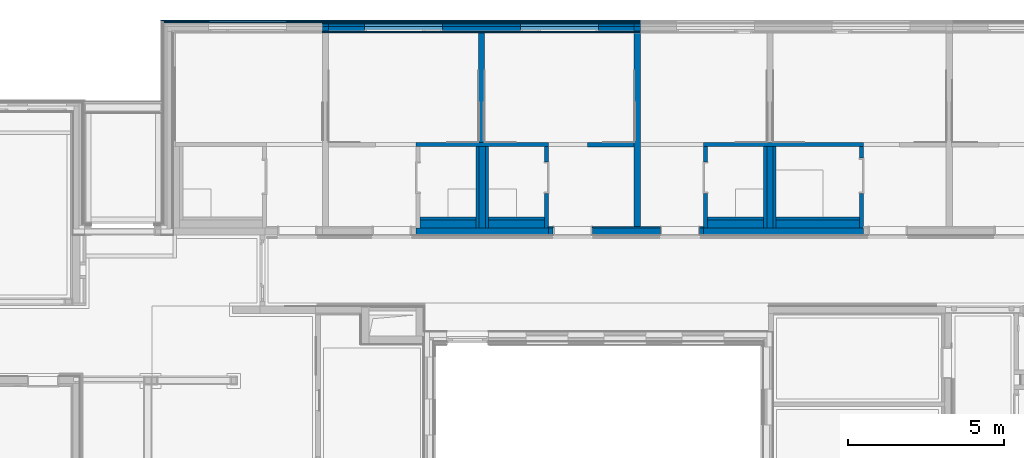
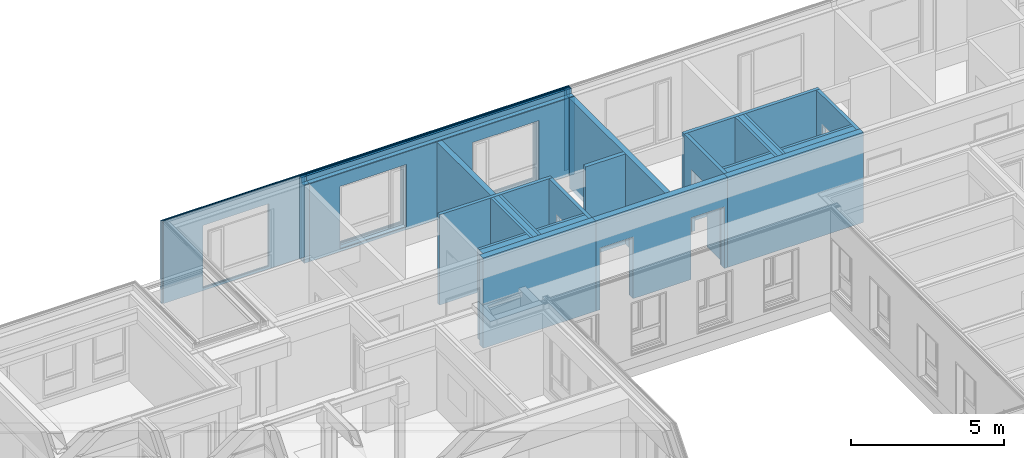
# One storey, part 59 of 207: 50 walls, 24 openings.
"""IFC4 building model written with IfcOpenShell, lengths in metres."""

from ifc_helpers import new_model, entity, si_unit, converted_unit, derived_unit, frame, frame_2d, origin, origin_with_axes, place, context, subcontext, project, spatial, polyline, rectangle, outline, extrude, material, element, save


model = new_model("IFC4")

# Units and contexts
model_context = context("Model", 3, precision=1e-05, world=origin())
body_context = subcontext(model_context, "Body", "Model", "MODEL_VIEW")
ifc_project = project(units=[si_unit("LENGTHUNIT", "METRE"), si_unit("AREAUNIT", "SQUARE_METRE"), si_unit("VOLUMEUNIT", "CUBIC_METRE"), si_unit("MASSUNIT", "GRAM", prefix="KILO"), converted_unit("PLANEANGLEUNIT", "DEGREE", entity("IfcPlaneAngleMeasure", 0.0174532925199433), si_unit("PLANEANGLEUNIT", "RADIAN"), dimensions=[0, 0, 0, 0, 0, 0, 0]), derived_unit("THERMALTRANSMITTANCEUNIT", [(si_unit("POWERUNIT", "WATT"), 1), (si_unit("THERMODYNAMICTEMPERATUREUNIT", "KELVIN"), -1), (si_unit("LENGTHUNIT", "METRE"), -2)]), derived_unit("VOLUMETRICFLOWRATEUNIT", [(si_unit("LENGTHUNIT", "METRE"), 3), (converted_unit("TIMEUNIT", "hour", entity("IfcTimeMeasure", 3600.0), si_unit("TIMEUNIT", "SECOND"), dimensions=[0, 0, 1, 0, 0, 0, 0]), -1), (si_unit("LENGTHUNIT", "METRE"), -1)])], contexts=[model_context])

# Site, building, storey
site_placement = place(None, origin())
site = spatial("IfcSite", under=ifc_project, at=site_placement, Name="Psychiatrie Neubau Wunstorf", CompositionType="ELEMENT")
building_placement = place(site_placement, origin())
building = spatial("IfcBuilding", under=site, at=building_placement, Name="Neubau H2 Stationsgebäude", CompositionType="ELEMENT")
storey_placement = place(building_placement, frame((0.0, 0.0, -0.2)))
storey = spatial("IfcBuildingStorey", under=building, at=storey_placement, Name="H2 Ebene 0", CompositionType="ELEMENT", Elevation=-0.2)

# Walls
ifc_material_1 = material(Name="WA-LB")
wall_1_placement = place(storey_placement, frame((75.9, 31.614, 0.5)))
element("IfcWall", 1, at=wall_1_placement, inside=storey, material=ifc_material_1, context=body_context, shape_type="SweptSolid", body=[
    extrude(rectangle(XDim=0.2, YDim=0.036, at=frame_2d((0.1, 0.018), x_axis=(1.0, 0.0))), origin_with_axes(), (0.0, 0.0, 1.0), 3.1),
])
ifc_material_2 = material(Name="WA-HD")
wall_2_placement = place(storey_placement, frame((75.9, 31.65, 0.5)))
element("IfcWall", 2, at=wall_2_placement, inside=storey, material=ifc_material_2, context=body_context, shape_type="SweptSolid", body=[
    extrude(rectangle(XDim=0.2, YDim=0.16, at=frame_2d((0.1, 0.08), x_axis=(1.0, 0.0))), origin_with_axes(), (0.0, 0.0, 1.0), 3.1),
])
ifc_material_3 = material(Name="WA-DL")
wall_3_placement = place(storey_placement, frame((75.9, 31.81, 0.5)))
element("IfcWall", 3, at=wall_3_placement, inside=storey, material=ifc_material_3, context=body_context, shape_type="SweptSolid", body=[
    extrude(rectangle(XDim=0.2, YDim=0.08, at=frame_2d((0.1, 0.04), x_axis=(1.0, 0.0))), origin_with_axes(), (0.0, 0.0, 1.0), 3.3),
])
ifc_material_4 = material(Name="WA-TP")
wall_4_placement = place(storey_placement, frame((75.9, 31.89, 0.5)))
element("IfcWall", 4, at=wall_4_placement, inside=storey, material=ifc_material_4, context=body_context, shape_type="SweptSolid", body=[
    extrude(rectangle(XDim=0.2, YDim=0.036, at=frame_2d((0.1, 0.018), x_axis=(1.0, 0.0))), origin_with_axes(), (0.0, 0.0, 1.0), 3.3),
])
ifc_material_5 = material(Name="WA-KL")
wall_5_placement = place(storey_placement, frame((75.9, 31.926, 0.5)))
element("IfcWall", 5, at=wall_5_placement, inside=storey, material=ifc_material_5, context=body_context, shape_type="SweptSolid", body=[
    extrude(rectangle(XDim=0.2, YDim=0.024, at=frame_2d((0.1, 0.012), x_axis=(1.0, 0.0))), origin_with_axes(), (0.0, 0.0, 1.0), 3.3),
])
ifc_material_6 = material(Name="WA-TL")
wall_6_placement = place(storey_placement, frame((75.9, 31.95, 0.5)))
element("IfcWall", 6, at=wall_6_placement, inside=storey, material=ifc_material_6, context=body_context, shape_type="SweptSolid", body=[
    extrude(rectangle(XDim=0.2, YDim=0.024, at=frame_2d((0.1, 0.012), x_axis=(1.0, 0.0))), origin_with_axes(), (0.0, 0.0, 1.0), 3.3),
])
ifc_material_7 = material(Name="WA-HS")
wall_7_placement = place(storey_placement, frame((75.9, 31.974, 0.5)))
element("IfcWall", 7, at=wall_7_placement, inside=storey, material=ifc_material_7, context=body_context, shape_type="SweptSolid", body=[
    extrude(rectangle(XDim=0.2, YDim=0.042, at=frame_2d((0.1, 0.021), x_axis=(1.0, 0.0))), origin_with_axes(), (0.0, 0.0, 1.0), 3.3),
])

# Wall, openings
ifc_material_8 = material(Name="WA-LB")
wall_8_placement = place(storey_placement, frame((76.1, 31.614, 0.5)))
wall_8 = element("IfcWall", 8, at=wall_8_placement, inside=storey, material=ifc_material_8, context=body_context, shape_type="SweptSolid", body=[
    extrude(rectangle(XDim=9.8, YDim=0.036, at=frame_2d((4.9, 0.018), x_axis=(1.0, 0.0))), origin_with_axes(), (0.0, 0.0, 1.0), 3.1),
])
opening_1_placement = place(wall_8_placement, frame((1.15, 0.0, 0.1), z_axis=(0.0, 1.0, 0.0), x_axis=(0.0, 0.0, 1.0)))
element("IfcOpeningElement", 9, at=opening_1_placement, cuts=wall_8, Name="Fensteröffnung", ObjectType="Opening", context=body_context, shape_type="SweptSolid", body=[
    extrude(outline(polyline([(2.5, 2.5), (2.5, 0.0), (0.0, 0.0), (0.0, 2.5), (2.5, 2.5)])), origin_with_axes(), (0.0, 0.0, 1.0), 0.036),
])
opening_2_placement = place(wall_8_placement, frame((6.15, 0.0, 0.1), z_axis=(0.0, 1.0, 0.0), x_axis=(0.0, 0.0, 1.0)))
element("IfcOpeningElement", 10, at=opening_2_placement, cuts=wall_8, Name="Fensteröffnung", ObjectType="Opening", context=body_context, shape_type="SweptSolid", body=[
    extrude(outline(polyline([(2.5, 2.5), (2.5, 0.0), (0.0, 0.0), (0.0, 2.5), (2.5, 2.5)])), origin_with_axes(), (0.0, 0.0, 1.0), 0.036),
])

ifc_material_9 = material(Name="WA-HD")
wall_9_placement = place(storey_placement, frame((76.1, 31.65, 0.5)))
wall_9 = element("IfcWall", 11, at=wall_9_placement, inside=storey, material=ifc_material_9, context=body_context, shape_type="SweptSolid", body=[
    extrude(rectangle(XDim=9.8, YDim=0.16, at=frame_2d((4.9, 0.08), x_axis=(1.0, 0.0))), origin_with_axes(), (0.0, 0.0, 1.0), 3.1),
])
opening_3_placement = place(wall_9_placement, frame((6.15, 0.0, 0.1), z_axis=(0.0, 1.0, 0.0), x_axis=(0.0, 0.0, 1.0)))
element("IfcOpeningElement", 12, at=opening_3_placement, cuts=wall_9, Name="Fensteröffnung", ObjectType="Opening", context=body_context, shape_type="SweptSolid", body=[
    extrude(outline(polyline([(2.5, 2.5), (2.5, 0.0), (0.0, 0.0), (0.0, 2.5), (2.5, 2.5)])), origin_with_axes(), (0.0, 0.0, 1.0), 0.16),
])
opening_4_placement = place(wall_9_placement, frame((1.15, 0.0, 0.1), z_axis=(0.0, 1.0, 0.0), x_axis=(0.0, 0.0, 1.0)))
element("IfcOpeningElement", 13, at=opening_4_placement, cuts=wall_9, Name="Fensteröffnung", ObjectType="Opening", context=body_context, shape_type="SweptSolid", body=[
    extrude(outline(polyline([(2.5, 2.5), (2.5, 0.0), (0.0, 0.0), (0.0, 2.5), (2.5, 2.5)])), origin_with_axes(), (0.0, 0.0, 1.0), 0.16),
])

ifc_material_10 = material(Name="WA-DL")
wall_10_placement = place(storey_placement, frame((76.1, 31.81, 0.5)))
wall_10 = element("IfcWall", 14, at=wall_10_placement, inside=storey, material=ifc_material_10, context=body_context, shape_type="SweptSolid", body=[
    extrude(rectangle(XDim=9.8, YDim=0.08, at=frame_2d((4.9, 0.04), x_axis=(1.0, 0.0))), origin_with_axes(), (0.0, 0.0, 1.0), 3.3),
])
opening_5_placement = place(wall_10_placement, frame((1.15, 0.0, 0.1), z_axis=(0.0, 1.0, 0.0), x_axis=(0.0, 0.0, 1.0)))
element("IfcOpeningElement", 15, at=opening_5_placement, cuts=wall_10, Name="Fensteröffnung", ObjectType="Opening", context=body_context, shape_type="SweptSolid", body=[
    extrude(outline(polyline([(2.5, 2.5), (2.5, 0.0), (0.0, 0.0), (0.0, 2.5), (2.5, 2.5)])), origin_with_axes(), (0.0, 0.0, 1.0), 0.08),
])
opening_6_placement = place(wall_10_placement, frame((6.15, 0.0, 0.1), z_axis=(0.0, 1.0, 0.0), x_axis=(0.0, 0.0, 1.0)))
element("IfcOpeningElement", 16, at=opening_6_placement, cuts=wall_10, Name="Fensteröffnung", ObjectType="Opening", context=body_context, shape_type="SweptSolid", body=[
    extrude(outline(polyline([(2.5, 2.5), (2.5, 0.0), (0.0, 0.0), (0.0, 2.5), (2.5, 2.5)])), origin_with_axes(), (0.0, 0.0, 1.0), 0.08),
])

ifc_material_11 = material(Name="WA-TP")
wall_11_placement = place(storey_placement, frame((76.1, 31.89, 0.5)))
wall_11 = element("IfcWall", 17, at=wall_11_placement, inside=storey, material=ifc_material_11, context=body_context, shape_type="SweptSolid", body=[
    extrude(rectangle(XDim=9.8, YDim=0.036, at=frame_2d((4.9, 0.018), x_axis=(1.0, 0.0))), origin_with_axes(), (0.0, 0.0, 1.0), 3.3),
])
opening_7_placement = place(wall_11_placement, frame((6.15, 0.0, 0.1), z_axis=(0.0, 1.0, 0.0), x_axis=(0.0, 0.0, 1.0)))
element("IfcOpeningElement", 18, at=opening_7_placement, cuts=wall_11, Name="Fensteröffnung", ObjectType="Opening", context=body_context, shape_type="SweptSolid", body=[
    extrude(outline(polyline([(2.5, 2.5), (2.5, 0.0), (0.0, 0.0), (0.0, 2.5), (2.5, 2.5)])), origin_with_axes(), (0.0, 0.0, 1.0), 0.036),
])
opening_8_placement = place(wall_11_placement, frame((1.15, 0.0, 0.1), z_axis=(0.0, 1.0, 0.0), x_axis=(0.0, 0.0, 1.0)))
element("IfcOpeningElement", 19, at=opening_8_placement, cuts=wall_11, Name="Fensteröffnung", ObjectType="Opening", context=body_context, shape_type="SweptSolid", body=[
    extrude(outline(polyline([(2.5, 2.5), (2.5, 0.0), (0.0, 0.0), (0.0, 2.5), (2.5, 2.5)])), origin_with_axes(), (0.0, 0.0, 1.0), 0.036),
])

ifc_material_12 = material(Name="WA-KL")
wall_12_placement = place(storey_placement, frame((76.1, 31.926, 0.5)))
wall_12 = element("IfcWall", 20, at=wall_12_placement, inside=storey, material=ifc_material_12, context=body_context, shape_type="SweptSolid", body=[
    extrude(rectangle(XDim=9.8, YDim=0.024, at=frame_2d((4.9, 0.012), x_axis=(1.0, 0.0))), origin_with_axes(), (0.0, 0.0, 1.0), 3.3),
])
opening_9_placement = place(wall_12_placement, frame((1.15, 0.0, 0.1), z_axis=(0.0, 1.0, 0.0), x_axis=(0.0, 0.0, 1.0)))
element("IfcOpeningElement", 21, at=opening_9_placement, cuts=wall_12, Name="Fensteröffnung", ObjectType="Opening", context=body_context, shape_type="SweptSolid", body=[
    extrude(outline(polyline([(2.5, 2.5), (2.5, 0.0), (0.0, 0.0), (0.0, 2.5), (2.5, 2.5)])), origin_with_axes(), (0.0, 0.0, 1.0), 0.024),
])
opening_10_placement = place(wall_12_placement, frame((6.15, 0.0, 0.1), z_axis=(0.0, 1.0, 0.0), x_axis=(0.0, 0.0, 1.0)))
element("IfcOpeningElement", 22, at=opening_10_placement, cuts=wall_12, Name="Fensteröffnung", ObjectType="Opening", context=body_context, shape_type="SweptSolid", body=[
    extrude(outline(polyline([(2.5, 2.5), (2.5, 0.0), (0.0, 0.0), (0.0, 2.5), (2.5, 2.5)])), origin_with_axes(), (0.0, 0.0, 1.0), 0.024),
])

ifc_material_13 = material(Name="WA-TL")
wall_13_placement = place(storey_placement, frame((76.1, 31.95, 0.5)))
wall_13 = element("IfcWall", 23, at=wall_13_placement, inside=storey, material=ifc_material_13, context=body_context, shape_type="SweptSolid", body=[
    extrude(rectangle(XDim=9.8, YDim=0.024, at=frame_2d((4.9, 0.012), x_axis=(1.0, 0.0))), origin_with_axes(), (0.0, 0.0, 1.0), 3.3),
])
opening_11_placement = place(wall_13_placement, frame((1.15, 0.0, 0.1), z_axis=(0.0, 1.0, 0.0), x_axis=(0.0, 0.0, 1.0)))
element("IfcOpeningElement", 24, at=opening_11_placement, cuts=wall_13, Name="Fensteröffnung", ObjectType="Opening", context=body_context, shape_type="SweptSolid", body=[
    extrude(outline(polyline([(2.5, 2.5), (2.5, 0.0), (0.0, 0.0), (0.0, 2.5), (2.5, 2.5)])), origin_with_axes(), (0.0, 0.0, 1.0), 0.024),
])
opening_12_placement = place(wall_13_placement, frame((6.15, 0.0, 0.1), z_axis=(0.0, 1.0, 0.0), x_axis=(0.0, 0.0, 1.0)))
element("IfcOpeningElement", 25, at=opening_12_placement, cuts=wall_13, Name="Fensteröffnung", ObjectType="Opening", context=body_context, shape_type="SweptSolid", body=[
    extrude(outline(polyline([(2.5, 2.5), (2.5, 0.0), (0.0, 0.0), (0.0, 2.5), (2.5, 2.5)])), origin_with_axes(), (0.0, 0.0, 1.0), 0.024),
])

ifc_material_14 = material(Name="WA-HS")
wall_14_placement = place(storey_placement, frame((76.1, 31.974, 0.5)))
wall_14 = element("IfcWall", 26, at=wall_14_placement, inside=storey, material=ifc_material_14, context=body_context, shape_type="SweptSolid", body=[
    extrude(rectangle(XDim=9.8, YDim=0.042, at=frame_2d((4.9, 0.021), x_axis=(1.0, 0.0))), origin_with_axes(), (0.0, 0.0, 1.0), 3.3),
])
opening_13_placement = place(wall_14_placement, frame((6.15, 0.0, 0.1), z_axis=(0.0, 1.0, 0.0), x_axis=(0.0, 0.0, 1.0)))
element("IfcOpeningElement", 27, at=opening_13_placement, cuts=wall_14, Name="Fensteröffnung", ObjectType="Opening", context=body_context, shape_type="SweptSolid", body=[
    extrude(outline(polyline([(2.5, 2.5), (2.5, 0.0), (0.0, 0.0), (0.0, 2.5), (2.5, 2.5)])), origin_with_axes(), (0.0, 0.0, 1.0), 0.042),
])
opening_14_placement = place(wall_14_placement, frame((1.15, 0.0, 0.1), z_axis=(0.0, 1.0, 0.0), x_axis=(0.0, 0.0, 1.0)))
element("IfcOpeningElement", 28, at=opening_14_placement, cuts=wall_14, Name="Fensteröffnung", ObjectType="Opening", context=body_context, shape_type="SweptSolid", body=[
    extrude(outline(polyline([(2.5, 2.5), (2.5, 0.0), (0.0, 0.0), (0.0, 2.5), (2.5, 2.5)])), origin_with_axes(), (0.0, 0.0, 1.0), 0.042),
])

# Walls
ifc_material_15 = material(Name="WA-LB")
wall_15_placement = place(storey_placement, frame((85.9, 31.614, 0.5)))
element("IfcWall", 29, at=wall_15_placement, inside=storey, material=ifc_material_15, context=body_context, shape_type="SweptSolid", body=[
    extrude(rectangle(XDim=0.2, YDim=0.036, at=frame_2d((0.1, 0.018), x_axis=(1.0, 0.0))), origin_with_axes(), (0.0, 0.0, 1.0), 3.1),
])
ifc_material_16 = material(Name="WA-HD")
wall_16_placement = place(storey_placement, frame((85.9, 31.65, 0.5)))
element("IfcWall", 30, at=wall_16_placement, inside=storey, material=ifc_material_16, context=body_context, shape_type="SweptSolid", body=[
    extrude(rectangle(XDim=0.2, YDim=0.16, at=frame_2d((0.1, 0.08), x_axis=(1.0, 0.0))), origin_with_axes(), (0.0, 0.0, 1.0), 3.1),
])
ifc_material_17 = material(Name="WA-DL")
wall_17_placement = place(storey_placement, frame((85.9, 31.81, 0.5)))
element("IfcWall", 31, at=wall_17_placement, inside=storey, material=ifc_material_17, context=body_context, shape_type="SweptSolid", body=[
    extrude(rectangle(XDim=0.2, YDim=0.08, at=frame_2d((0.1, 0.04), x_axis=(1.0, 0.0))), origin_with_axes(), (0.0, 0.0, 1.0), 3.3),
])
ifc_material_18 = material(Name="WA-TP")
wall_18_placement = place(storey_placement, frame((85.9, 31.89, 0.5)))
element("IfcWall", 32, at=wall_18_placement, inside=storey, material=ifc_material_18, context=body_context, shape_type="SweptSolid", body=[
    extrude(rectangle(XDim=0.2, YDim=0.036, at=frame_2d((0.1, 0.018), x_axis=(1.0, 0.0))), origin_with_axes(), (0.0, 0.0, 1.0), 3.3),
])
ifc_material_19 = material(Name="WA-KL")
wall_19_placement = place(storey_placement, frame((85.9, 31.926, 0.5)))
element("IfcWall", 33, at=wall_19_placement, inside=storey, material=ifc_material_19, context=body_context, shape_type="SweptSolid", body=[
    extrude(rectangle(XDim=0.2, YDim=0.024, at=frame_2d((0.1, 0.012), x_axis=(1.0, 0.0))), origin_with_axes(), (0.0, 0.0, 1.0), 3.3),
])
ifc_material_20 = material(Name="WA-TL")
wall_20_placement = place(storey_placement, frame((85.9, 31.95, 0.5)))
element("IfcWall", 34, at=wall_20_placement, inside=storey, material=ifc_material_20, context=body_context, shape_type="SweptSolid", body=[
    extrude(rectangle(XDim=0.2, YDim=0.024, at=frame_2d((0.1, 0.012), x_axis=(1.0, 0.0))), origin_with_axes(), (0.0, 0.0, 1.0), 3.3),
])
ifc_material_21 = material(Name="WA-HS")
wall_21_placement = place(storey_placement, frame((85.9, 31.974, 0.5)))
element("IfcWall", 35, at=wall_21_placement, inside=storey, material=ifc_material_21, context=body_context, shape_type="SweptSolid", body=[
    extrude(rectangle(XDim=0.2, YDim=0.042, at=frame_2d((0.1, 0.021), x_axis=(1.0, 0.0))), origin_with_axes(), (0.0, 0.0, 1.0), 3.3),
])

# Wall, opening
ifc_material_22 = material(Name="WA-KL")
wall_22_placement = place(storey_placement, frame((70.775, 31.926, 0.5), z_axis=(0.0, 0.0, 1.0), x_axis=(1.0, -1.41969904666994e-15, 0.0)))
wall_22 = element("IfcWall", 36, at=wall_22_placement, inside=storey, material=ifc_material_22, context=body_context, shape_type="SweptSolid", body=[
    extrude(rectangle(XDim=5.12499999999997, YDim=0.024, at=frame_2d((2.56249999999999, 0.012), x_axis=(1.0, 0.0))), origin_with_axes(), (0.0, 0.0, 1.0), 3.3),
])
opening_15_placement = place(wall_22_placement, frame((1.47499999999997, 0.0, 0.1), z_axis=(0.0, 1.0, 0.0), x_axis=(0.0, 0.0, 1.0)))
element("IfcOpeningElement", 37, at=opening_15_placement, cuts=wall_22, Name="Fensteröffnung", ObjectType="Opening", context=body_context, shape_type="SweptSolid", body=[
    extrude(outline(polyline([(2.5, 2.5), (2.5, 0.0), (0.0, 0.0), (0.0, 2.5), (2.5, 2.5)])), origin_with_axes(), (0.0, 0.0, 1.0), 0.024),
])

ifc_material_23 = material(Name="WA-TL")
wall_23_placement = place(storey_placement, frame((70.751, 31.95, 0.5), z_axis=(0.0, 0.0, 1.0), x_axis=(1.0, -1.41308168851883e-15, 0.0)))
wall_23 = element("IfcWall", 38, at=wall_23_placement, inside=storey, material=ifc_material_23, context=body_context, shape_type="SweptSolid", body=[
    extrude(rectangle(XDim=5.14899999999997, YDim=0.024, at=frame_2d((2.57449999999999, 0.012), x_axis=(1.0, 0.0))), origin_with_axes(), (0.0, 0.0, 1.0), 3.3),
])
opening_16_placement = place(wall_23_placement, frame((1.49899999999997, 0.0, 0.1), z_axis=(0.0, 1.0, 0.0), x_axis=(0.0, 0.0, 1.0)))
element("IfcOpeningElement", 39, at=opening_16_placement, cuts=wall_23, Name="Fensteröffnung", ObjectType="Opening", context=body_context, shape_type="SweptSolid", body=[
    extrude(outline(polyline([(2.5, 2.5), (2.5, 0.0), (0.0, 0.0), (0.0, 2.5), (2.5, 2.5)])), origin_with_axes(), (0.0, 0.0, 1.0), 0.024),
])

ifc_material_24 = material(Name="WA-HS")
wall_24_placement = place(storey_placement, frame((70.709, 31.974, 0.5), z_axis=(0.0, 0.0, 1.0), x_axis=(1.0, -1.40164854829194e-15, 0.0)))
wall_24 = element("IfcWall", 40, at=wall_24_placement, inside=storey, material=ifc_material_24, context=body_context, shape_type="SweptSolid", body=[
    extrude(rectangle(XDim=5.19099999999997, YDim=0.042, at=frame_2d((2.59549999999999, 0.021), x_axis=(1.0, 0.0))), origin_with_axes(), (0.0, 0.0, 1.0), 3.3),
])
opening_17_placement = place(wall_24_placement, frame((1.54099999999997, 0.0, 0.1), z_axis=(0.0, 1.0, 0.0), x_axis=(0.0, 0.0, 1.0)))
element("IfcOpeningElement", 41, at=opening_17_placement, cuts=wall_24, Name="Fensteröffnung", ObjectType="Opening", context=body_context, shape_type="SweptSolid", body=[
    extrude(outline(polyline([(2.5, 2.5), (2.5, 0.0), (0.0, 0.0), (0.0, 2.5), (2.5, 2.5)])), origin_with_axes(), (0.0, 0.0, 1.0), 0.042),
])

# Walls
ifc_material_25 = material(Name="WI-LB")
wall_25_placement = place(storey_placement, frame((80.9, 31.614, 0.0), z_axis=(0.0, 0.0, 1.0), x_axis=(0.0, -1.0, 0.0)))
element("IfcWall", 42, at=wall_25_placement, inside=storey, material=ifc_material_25, context=body_context, shape_type="SweptSolid", body=[
    extrude(rectangle(XDim=3.52449999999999, YDim=0.2, at=frame_2d((1.76225, 0.1), x_axis=(1.0, 0.0))), origin_with_axes(), (0.0, 0.0, 1.0), 3.6),
])
ifc_material_26 = material(Name="WI-LB")
wall_26_placement = place(storey_placement, frame((85.9, 31.614, 0.0), z_axis=(0.0, 0.0, 1.0), x_axis=(0.0, -1.0, 0.0)))
element("IfcWall", 43, at=wall_26_placement, inside=storey, material=ifc_material_26, context=body_context, shape_type="SweptSolid", body=[
    extrude(rectangle(XDim=6.26449999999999, YDim=0.2, at=frame_2d((3.13225, 0.1), x_axis=(1.0, 0.0))), origin_with_axes(), (0.0, 0.0, 1.0), 3.6),
])

# Wall, opening
ifc_material_27 = material(Name="WI-LB")
wall_27_placement = place(storey_placement, frame((88.125, 27.9645, 0.0), z_axis=(0.0, 0.0, 1.0), x_axis=(0.0, -1.0, 0.0)))
wall_27 = element("IfcWall", 44, at=wall_27_placement, inside=storey, material=ifc_material_27, context=body_context, shape_type="SweptSolid", body=[
    extrude(rectangle(XDim=2.615, YDim=0.125, at=frame_2d((1.3075, 0.0625), x_axis=(1.0, 0.0))), origin_with_axes(), (0.0, 0.0, 1.0), 3.6),
])
opening_18_placement = place(wall_27_placement, frame((1.51, 0.125, 0.0), z_axis=(0.0, -1.0, 0.0), x_axis=(0.0, 0.0, 1.0)))
element("IfcOpeningElement", 45, at=opening_18_placement, cuts=wall_27, Name="Türöffnung", ObjectType="Opening", context=body_context, shape_type="SweptSolid", body=[
    extrude(outline(polyline([(2.46, 1.01), (2.46, 0.0), (0.0, 0.0), (0.0, 1.01), (2.46, 1.01)])), origin_with_axes(), (0.0, 0.0, 1.0), 0.125),
])

ifc_material_28 = material(Name="WI-LB")
wall_28_placement = place(storey_placement, frame((93.125, 27.9645, 0.0), z_axis=(0.0, 0.0, 1.0), x_axis=(0.0, -1.0, 0.0)))
wall_28 = element("IfcWall", 46, at=wall_28_placement, inside=storey, material=ifc_material_28, context=body_context, shape_type="SweptSolid", body=[
    extrude(rectangle(XDim=2.615, YDim=0.125, at=frame_2d((1.3075, 0.0625), x_axis=(1.0, 0.0))), origin_with_axes(), (0.0, 0.0, 1.0), 3.6),
])
opening_19_placement = place(wall_28_placement, frame((0.375, 0.0, 0.0), z_axis=(0.0, 1.0, 0.0), x_axis=(0.0, 0.0, 1.0)))
element("IfcOpeningElement", 47, at=opening_19_placement, cuts=wall_28, Name="Türöffnung", ObjectType="Opening", context=body_context, shape_type="SweptSolid", body=[
    extrude(outline(polyline([(2.46, 1.135), (2.46, 0.0), (0.0, 0.0), (0.0, 1.135), (2.46, 1.135)])), origin_with_axes(), (0.0, 0.0, 1.0), 0.125),
])

ifc_material_29 = material(Name="WI-LB")
wall_29_placement = place(storey_placement, frame((83.025, 27.9645, 0.0), z_axis=(0.0, 0.0, 1.0), x_axis=(0.0, -1.0, 0.0)))
wall_29 = element("IfcWall", 48, at=wall_29_placement, inside=storey, material=ifc_material_29, context=body_context, shape_type="SweptSolid", body=[
    extrude(rectangle(XDim=2.615, YDim=0.125, at=frame_2d((1.3075, 0.0625), x_axis=(1.0, 0.0))), origin_with_axes(), (0.0, 0.0, 1.0), 3.6),
])
opening_20_placement = place(wall_29_placement, frame((0.5, 0.0, 0.0), z_axis=(0.0, 1.0, 0.0), x_axis=(0.0, 0.0, 1.0)))
element("IfcOpeningElement", 49, at=opening_20_placement, cuts=wall_29, Name="Türöffnung", ObjectType="Opening", context=body_context, shape_type="SweptSolid", body=[
    extrude(outline(polyline([(2.46, 1.01), (2.46, 0.0), (0.0, 0.0), (0.0, 1.01), (2.46, 1.01)])), origin_with_axes(), (0.0, 0.0, 1.0), 0.125),
])

# Walls
ifc_material_30 = material(Name="WI-LB")
wall_30_placement = place(storey_placement, frame((78.9, 27.9645, 0.0)))
element("IfcWall", 50, at=wall_30_placement, inside=storey, material=ifc_material_30, context=body_context, shape_type="SweptSolid", body=[
    extrude(rectangle(XDim=4.25, YDim=0.125, at=frame_2d((2.125, 0.0625), x_axis=(1.0, 0.0))), origin_with_axes(), (0.0, 0.0, 1.0), 3.6),
])
ifc_material_31 = material(Name="WI-LB")
wall_31_placement = place(storey_placement, frame((88.125, 27.9645, 0.0)))
element("IfcWall", 51, at=wall_31_placement, inside=storey, material=ifc_material_31, context=body_context, shape_type="SweptSolid", body=[
    extrude(rectangle(XDim=5.125, YDim=0.125, at=frame_2d((2.5625, 0.0625), x_axis=(1.0, 0.0))), origin_with_axes(), (0.0, 0.0, 1.0), 3.6),
])
ifc_material_32 = material(Name="WI-LB")
wall_32_placement = place(storey_placement, frame((84.3999999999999, 27.9395, 0.0)))
element("IfcWall", 52, at=wall_32_placement, inside=storey, material=ifc_material_32, context=body_context, shape_type="SweptSolid", body=[
    extrude(rectangle(XDim=1.5, YDim=0.15, at=frame_2d((0.75, 0.075), x_axis=(1.0, 0.0))), origin_with_axes(), (0.0, 0.0, 1.0), 3.6),
])
ifc_material_33 = material(Name="WI-HW 60")
wall_33_placement = place(storey_placement, frame((78.9, 25.1175, 0.0)))
element("IfcWall", 53, at=wall_33_placement, inside=storey, material=ifc_material_33, context=body_context, shape_type="SweptSolid", body=[
    extrude(rectangle(XDim=4.25, YDim=0.232, at=frame_2d((2.125, 0.116), x_axis=(1.0, 0.0))), origin_with_axes(), (0.0, 0.0, 1.0), 3.6),
])

# Wall, openings
ifc_material_34 = material(Name="WI-HW 60")
wall_34_placement = place(storey_placement, frame((83.15, 25.1175, 0.0)))
wall_34 = element("IfcWall", 54, at=wall_34_placement, inside=storey, material=ifc_material_34, context=body_context, shape_type="SweptSolid", body=[
    extrude(rectangle(XDim=4.975, YDim=0.232, at=frame_2d((2.4875, 0.116), x_axis=(1.0, 0.0))), origin_with_axes(), (0.0, 0.0, 1.0), 3.6),
])
opening_21_placement = place(wall_34_placement, frame((0.15, 0.0, 0.0), z_axis=(0.0, 1.0, 0.0), x_axis=(0.0, 0.0, 1.0)))
element("IfcOpeningElement", 55, at=opening_21_placement, cuts=wall_34, Name="Türöffnung", ObjectType="Opening", context=body_context, shape_type="SweptSolid", body=[
    extrude(outline(polyline([(2.46, 1.26), (2.46, 0.0), (0.0, 0.0), (0.0, 1.26), (2.46, 1.26)])), origin_with_axes(), (0.0, 0.0, 1.0), 0.232),
])
opening_22_placement = place(wall_34_placement, frame((3.59, 0.0, 0.0), z_axis=(0.0, 1.0, 0.0), x_axis=(0.0, 0.0, 1.0)))
element("IfcOpeningElement", 56, at=opening_22_placement, cuts=wall_34, Name="Türöffnung", ObjectType="Opening", context=body_context, shape_type="SweptSolid", body=[
    extrude(outline(polyline([(2.46, 1.26), (2.46, 0.0), (0.0, 0.0), (0.0, 1.26), (2.46, 1.26)])), origin_with_axes(), (0.0, 0.0, 1.0), 0.232),
])

ifc_material_35 = material(Name="WI-LB")
wall_35_placement = place(storey_placement, frame((83.15, 25.3495, 0.0)))
wall_35 = element("IfcWall", 57, at=wall_35_placement, inside=storey, material=ifc_material_35, context=body_context, shape_type="SweptSolid", body=[
    extrude(rectangle(XDim=4.975, YDim=0.04, at=frame_2d((2.4875, 0.02), x_axis=(1.0, 0.0))), origin_with_axes(), (0.0, 0.0, 1.0), 2.9),
])
opening_23_placement = place(wall_35_placement, frame((3.59, 0.0, 0.0), z_axis=(0.0, 1.0, 0.0), x_axis=(0.0, 0.0, 1.0)))
element("IfcOpeningElement", 58, at=opening_23_placement, cuts=wall_35, Name="Türöffnung", ObjectType="Opening", context=body_context, shape_type="SweptSolid", body=[
    extrude(outline(polyline([(2.46, 1.26), (2.46, 0.0), (0.0, 0.0), (0.0, 1.26), (2.46, 1.26)])), origin_with_axes(), (0.0, 0.0, 1.0), 0.04),
])
opening_24_placement = place(wall_35_placement, frame((0.15, 0.0, 0.0), z_axis=(0.0, 1.0, 0.0), x_axis=(0.0, 0.0, 1.0)))
element("IfcOpeningElement", 59, at=opening_24_placement, cuts=wall_35, Name="Türöffnung", ObjectType="Opening", context=body_context, shape_type="SweptSolid", body=[
    extrude(outline(polyline([(2.46, 1.26), (2.46, 0.0), (0.0, 0.0), (0.0, 1.26), (2.46, 1.26)])), origin_with_axes(), (0.0, 0.0, 1.0), 0.04),
])

# Walls
ifc_material_36 = material(Name="WI-IW")
wall_36_placement = place(storey_placement, frame((93.125, 25.6995, 0.0), z_axis=(0.0, 0.0, 1.0), x_axis=(-1.0, 0.0, 0.0)))
element("IfcWall", 60, at=wall_36_placement, inside=storey, material=ifc_material_36, context=body_context, shape_type="SweptSolid", body=[
    extrude(rectangle(XDim=2.67500000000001, YDim=0.1, at=frame_2d((1.33750000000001, 0.05), x_axis=(1.0, 0.0))), origin_with_axes(), (0.0, 0.0, 1.0), 3.6),
])
ifc_material_37 = material(Name="Installationsraum")
wall_37_placement = place(storey_placement, frame((93.125, 25.5995, 0.0), z_axis=(0.0, 0.0, 1.0), x_axis=(-1.0, 0.0, 0.0)))
element("IfcWall", 61, at=wall_37_placement, inside=storey, material=ifc_material_37, context=body_context, shape_type="SweptSolid", body=[
    extrude(rectangle(XDim=2.67500000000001, YDim=0.25, at=frame_2d((1.33750000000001, 0.125), x_axis=(1.0, 0.0))), origin_with_axes(), (0.0, 0.0, 1.0), 3.6),
])
ifc_material_38 = material(Name="WI-IW")
wall_38_placement = place(storey_placement, frame((90.05, 27.9645, 0.0), z_axis=(0.0, 0.0, 1.0), x_axis=(0.0, -1.0, 0.0)))
element("IfcWall", 62, at=wall_38_placement, inside=storey, material=ifc_material_38, context=body_context, shape_type="SweptSolid", body=[
    extrude(rectangle(XDim=2.615, YDim=0.1, at=frame_2d((1.3075, 0.05), x_axis=(1.0, 0.0))), origin_with_axes(), (0.0, 0.0, 1.0), 3.6),
])
ifc_material_39 = material(Name="Installationsraum")
wall_39_placement = place(storey_placement, frame((90.15, 27.9645, 0.0), z_axis=(0.0, 0.0, 1.0), x_axis=(0.0, -1.0, 0.0)))
element("IfcWall", 63, at=wall_39_placement, inside=storey, material=ifc_material_39, context=body_context, shape_type="SweptSolid", body=[
    extrude(rectangle(XDim=2.615, YDim=0.2, at=frame_2d((1.3075, 0.1), x_axis=(1.0, 0.0))), origin_with_axes(), (0.0, 0.0, 1.0), 3.6),
])
ifc_material_40 = material(Name="WI-IW")
wall_40_placement = place(storey_placement, frame((90.35, 27.9645, 0.0), z_axis=(0.0, 0.0, 1.0), x_axis=(0.0, -1.0, 0.0)))
element("IfcWall", 64, at=wall_40_placement, inside=storey, material=ifc_material_40, context=body_context, shape_type="SweptSolid", body=[
    extrude(rectangle(XDim=2.615, YDim=0.1, at=frame_2d((1.3075, 0.05), x_axis=(1.0, 0.0))), origin_with_axes(), (0.0, 0.0, 1.0), 3.6),
])
ifc_material_41 = material(Name="WI-IW")
wall_41_placement = place(storey_placement, frame((90.05, 25.6995, 0.0), z_axis=(0.0, 0.0, 1.0), x_axis=(-1.0, 0.0, 0.0)))
element("IfcWall", 65, at=wall_41_placement, inside=storey, material=ifc_material_41, context=body_context, shape_type="SweptSolid", body=[
    extrude(rectangle(XDim=1.79999999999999, YDim=0.1, at=frame_2d((0.899999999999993, 0.05), x_axis=(1.0, 0.0))), origin_with_axes(), (0.0, 0.0, 1.0), 3.6),
])
ifc_material_42 = material(Name="Installationsraum")
wall_42_placement = place(storey_placement, frame((90.05, 25.5995, 0.0), z_axis=(0.0, 0.0, 1.0), x_axis=(-1.0, 0.0, 0.0)))
element("IfcWall", 66, at=wall_42_placement, inside=storey, material=ifc_material_42, context=body_context, shape_type="SweptSolid", body=[
    extrude(rectangle(XDim=1.79999999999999, YDim=0.25, at=frame_2d((0.899999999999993, 0.125), x_axis=(1.0, 0.0))), origin_with_axes(), (0.0, 0.0, 1.0), 3.6),
])
ifc_material_43 = material(Name="WI-IW")
wall_43_placement = place(storey_placement, frame((83.025, 25.6995, 0.0), z_axis=(0.0, 0.0, 1.0), x_axis=(-1.0, 0.0, 0.0)))
element("IfcWall", 67, at=wall_43_placement, inside=storey, material=ifc_material_43, context=body_context, shape_type="SweptSolid", body=[
    extrude(rectangle(XDim=1.80000000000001, YDim=0.1, at=frame_2d((0.900000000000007, 0.05), x_axis=(1.0, 0.0))), origin_with_axes(), (0.0, 0.0, 1.0), 3.6),
])
ifc_material_44 = material(Name="Installationsraum")
wall_44_placement = place(storey_placement, frame((83.025, 25.5995, 0.0), z_axis=(0.0, 0.0, 1.0), x_axis=(-1.0, 0.0, 0.0)))
element("IfcWall", 68, at=wall_44_placement, inside=storey, material=ifc_material_44, context=body_context, shape_type="SweptSolid", body=[
    extrude(rectangle(XDim=1.80000000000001, YDim=0.25, at=frame_2d((0.900000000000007, 0.125), x_axis=(1.0, 0.0))), origin_with_axes(), (0.0, 0.0, 1.0), 3.6),
])
ifc_material_45 = material(Name="WI-IW")
wall_45_placement = place(storey_placement, frame((80.825, 27.9645, 0.0), z_axis=(0.0, 0.0, 1.0), x_axis=(0.0, -1.0, 0.0)))
element("IfcWall", 69, at=wall_45_placement, inside=storey, material=ifc_material_45, context=body_context, shape_type="SweptSolid", body=[
    extrude(rectangle(XDim=2.615, YDim=0.1, at=frame_2d((1.3075, 0.05), x_axis=(1.0, 0.0))), origin_with_axes(), (0.0, 0.0, 1.0), 3.6),
])
ifc_material_46 = material(Name="Installationsraum")
wall_46_placement = place(storey_placement, frame((80.925, 27.9645, 0.0), z_axis=(0.0, 0.0, 1.0), x_axis=(0.0, -1.0, 0.0)))
element("IfcWall", 70, at=wall_46_placement, inside=storey, material=ifc_material_46, context=body_context, shape_type="SweptSolid", body=[
    extrude(rectangle(XDim=2.615, YDim=0.2, at=frame_2d((1.3075, 0.1), x_axis=(1.0, 0.0))), origin_with_axes(), (0.0, 0.0, 1.0), 3.6),
])
ifc_material_47 = material(Name="WI-IW")
wall_47_placement = place(storey_placement, frame((81.125, 27.9645, 0.0), z_axis=(0.0, 0.0, 1.0), x_axis=(0.0, -1.0, 0.0)))
element("IfcWall", 71, at=wall_47_placement, inside=storey, material=ifc_material_47, context=body_context, shape_type="SweptSolid", body=[
    extrude(rectangle(XDim=2.615, YDim=0.1, at=frame_2d((1.3075, 0.05), x_axis=(1.0, 0.0))), origin_with_axes(), (0.0, 0.0, 1.0), 3.6),
])
ifc_material_48 = material(Name="WI-IW")
wall_48_placement = place(storey_placement, frame((80.825, 25.6995, 0.0), z_axis=(0.0, 0.0, 1.0), x_axis=(-1.0, 0.0, 0.0)))
element("IfcWall", 72, at=wall_48_placement, inside=storey, material=ifc_material_48, context=body_context, shape_type="SweptSolid", body=[
    extrude(rectangle(XDim=1.79999999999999, YDim=0.1, at=frame_2d((0.899999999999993, 0.05), x_axis=(1.0, 0.0))), origin_with_axes(), (0.0, 0.0, 1.0), 3.6),
])
ifc_material_49 = material(Name="Installationsraum")
wall_49_placement = place(storey_placement, frame((80.825, 25.5995, 0.0), z_axis=(0.0, 0.0, 1.0), x_axis=(-1.0, 0.0, 0.0)))
element("IfcWall", 73, at=wall_49_placement, inside=storey, material=ifc_material_49, context=body_context, shape_type="SweptSolid", body=[
    extrude(rectangle(XDim=1.79999999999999, YDim=0.25, at=frame_2d((0.899999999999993, 0.125), x_axis=(1.0, 0.0))), origin_with_axes(), (0.0, 0.0, 1.0), 3.6),
])
ifc_material_50 = material(Name="WI-HW 60")
wall_50_placement = place(storey_placement, frame((88.125, 25.1175, 0.0)))
element("IfcWall", 74, at=wall_50_placement, inside=storey, material=ifc_material_50, context=body_context, shape_type="SweptSolid", body=[
    extrude(rectangle(XDim=5.125, YDim=0.232, at=frame_2d((2.5625, 0.116), x_axis=(1.0, 0.0))), origin_with_axes(), (0.0, 0.0, 1.0), 3.6),
])

save(model, "model.ifc")
